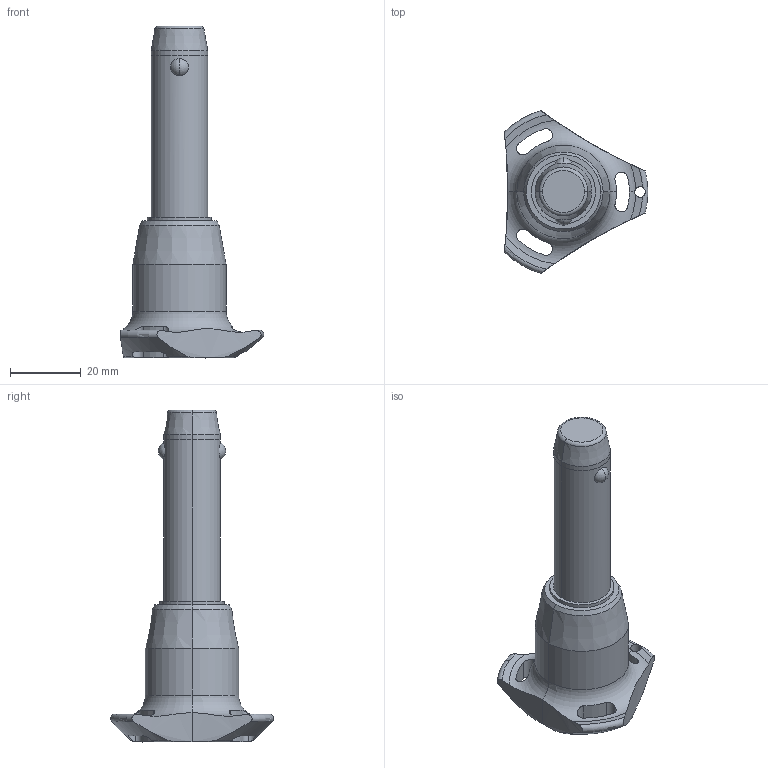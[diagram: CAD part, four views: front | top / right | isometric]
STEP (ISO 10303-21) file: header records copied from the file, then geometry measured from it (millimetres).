
FILE_DESCRIPTION (( 'STEP AP203' ), '1' );
FILE_NAME ('QR1726.M16-040-T.step', '2025-11-13T11:18:40', ( '' ), ( '' ), 'SwSTEP 2.0', 'SolidWorks 2019', '' );
FILE_SCHEMA (( 'CONFIG_CONTROL_DESIGN' ));
Length unit declared in the file: millimetre
Products named in the file (1): QR1726.M16-040-T
Bounding box: 40.5 x 45.88 x 93.7 mm (x, y, z)
Volume: 33138.4 mm3; surface area: 8669.5 mm2
Topology: 1 solids, 1 shells, 68 faces, 184 edges, 117 vertices
Faces by surface type: cylinder 32, cone 14, torus 11, sphere 6, plane 5
Entity records: 2950 total; most frequent: CARTESIAN_POINT 1194, ORIENTED_EDGE 368, DIRECTION 345, EDGE_CURVE 184, AXIS2_PLACEMENT_3D 154, VERTEX_POINT 117, CIRCLE 85, EDGE_LOOP 75
